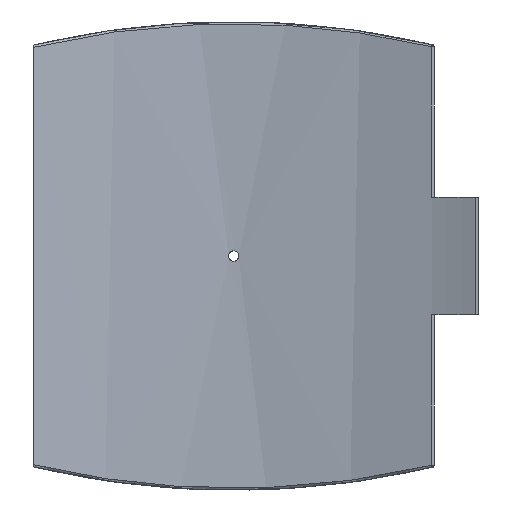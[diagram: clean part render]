
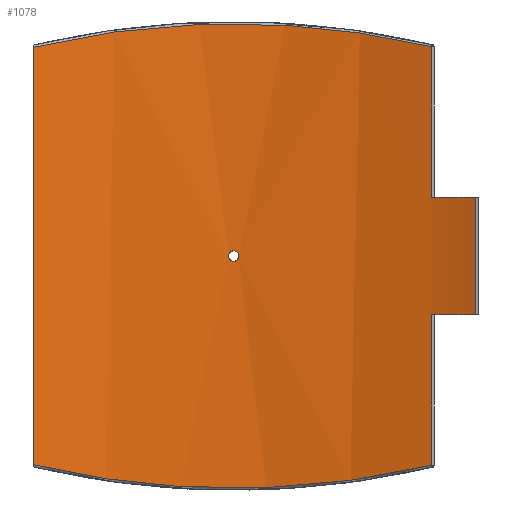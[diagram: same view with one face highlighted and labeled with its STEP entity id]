
A CAD part, front view. The second image highlights one B-rep face of the part: STEP entity #1078.
In plain terms, the highlighted cylindrical face has radius 600 mm (diameter 1200 mm), a partial arc.
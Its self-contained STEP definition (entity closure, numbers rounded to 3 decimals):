
#55=FACE_BOUND('',#355,.T.);
#109=B_SPLINE_CURVE_WITH_KNOTS('',3,(#2180,#2181,#2182,#2183,#2184,#2185,
#2186,#2187,#2188),.UNSPECIFIED.,.F.,.F.,(4,1,1,1,1,1,4),(-46.413,
-40.524,-34.635,-28.745,-16.966,
-11.077,-5.187),.UNSPECIFIED.);
#110=B_SPLINE_CURVE_WITH_KNOTS('',3,(#2197,#2198,#2199,#2200,#2201,#2202,
#2203,#2204,#2205),.UNSPECIFIED.,.F.,.F.,(4,1,1,1,1,1,4),(-42.084,
-36.195,-30.306,-18.527,-12.637,
-6.748,-0.858),.UNSPECIFIED.);
#111=B_SPLINE_CURVE_WITH_KNOTS('',3,(#2208,#2209,#2210,#2211,#2212,#2213,
#2214,#2215,#2216,#2217),.UNSPECIFIED.,.F.,.F.,(4,2,2,2,4),(0.,0.196,
0.392,0.588,0.784),.UNSPECIFIED.);
#112=B_SPLINE_CURVE_WITH_KNOTS('',3,(#2218,#2219,#2220,#2221,#2222,#2223,
#2224,#2225,#2226,#2227,#2228,#2229,#2230,#2231,#2232,#2233,#2234,#2235,
#2236,#2237,#2238,#2239,#2240,#2241,#2242,#2243),.UNSPECIFIED.,.F.,.F.,
(4,2,2,2,2,2,2,2,2,2,2,2,4),(0.784,0.979,1.175,
1.371,1.567,1.763,1.959,2.155,
2.351,2.546,2.742,2.938,3.134),
 .UNSPECIFIED.);
#133=LINE('',#1615,#184);
#144=LINE('',#1900,#195);
#151=LINE('',#2193,#202);
#152=LINE('',#2196,#203);
#184=VECTOR('',#1292,10.);
#195=VECTOR('',#1331,10.);
#202=VECTOR('',#1368,10.);
#203=VECTOR('',#1371,10.);
#244=CYLINDRICAL_SURFACE('',#1175,600.);
#288=FACE_OUTER_BOUND('',#354,.T.);
#354=EDGE_LOOP('',(#839,#840,#841,#842,#843,#844,#845,#846));
#355=EDGE_LOOP('',(#847,#848));
#449=CIRCLE('',#1176,600.);
#450=CIRCLE('',#1177,600.);
#510=VERTEX_POINT('',#1606);
#513=VERTEX_POINT('',#1613);
#533=VERTEX_POINT('',#1893);
#536=VERTEX_POINT('',#1898);
#549=VERTEX_POINT('',#2169);
#550=VERTEX_POINT('',#2190);
#551=VERTEX_POINT('',#2192);
#552=VERTEX_POINT('',#2195);
#553=VERTEX_POINT('',#2206);
#554=VERTEX_POINT('',#2207);
#613=EDGE_CURVE('',#513,#510,#133,.T.);
#643=EDGE_CURVE('',#536,#533,#144,.T.);
#666=EDGE_CURVE('',#549,#536,#109,.T.);
#667=EDGE_CURVE('',#550,#513,#449,.T.);
#668=EDGE_CURVE('',#550,#551,#151,.T.);
#669=EDGE_CURVE('',#533,#551,#450,.T.);
#670=EDGE_CURVE('',#552,#549,#152,.T.);
#671=EDGE_CURVE('',#510,#552,#110,.T.);
#672=EDGE_CURVE('',#553,#554,#111,.T.);
#673=EDGE_CURVE('',#554,#553,#112,.T.);
#839=ORIENTED_EDGE('',*,*,#667,.F.);
#840=ORIENTED_EDGE('',*,*,#668,.T.);
#841=ORIENTED_EDGE('',*,*,#669,.F.);
#842=ORIENTED_EDGE('',*,*,#643,.F.);
#843=ORIENTED_EDGE('',*,*,#666,.F.);
#844=ORIENTED_EDGE('',*,*,#670,.F.);
#845=ORIENTED_EDGE('',*,*,#671,.F.);
#846=ORIENTED_EDGE('',*,*,#613,.F.);
#847=ORIENTED_EDGE('',*,*,#672,.T.);
#848=ORIENTED_EDGE('',*,*,#673,.T.);
#1078=ADVANCED_FACE('',(#288,#55),#244,.F.);
#1175=AXIS2_PLACEMENT_3D('',#2189,#1364,#1365);
#1176=AXIS2_PLACEMENT_3D('',#2191,#1366,#1367);
#1177=AXIS2_PLACEMENT_3D('',#2194,#1369,#1370);
#1292=DIRECTION('',(0.,0.,-1.));
#1331=DIRECTION('',(0.,0.,-1.));
#1364=DIRECTION('center_axis',(0.,0.,1.));
#1365=DIRECTION('ref_axis',(-1.,0.,0.));
#1366=DIRECTION('center_axis',(0.,0.,1.));
#1367=DIRECTION('ref_axis',(-0.405,-0.915,0.));
#1368=DIRECTION('',(0.,0.,1.));
#1369=DIRECTION('center_axis',(0.,0.,-1.));
#1370=DIRECTION('ref_axis',(-0.405,-0.915,0.));
#1371=DIRECTION('',(0.,0.,1.));
#1606=CARTESIAN_POINT('',(198.488,566.218,-209.917));
#1613=CARTESIAN_POINT('',(198.488,566.218,-58.75));
#1615=CARTESIAN_POINT('',(198.488,566.218,0.));
#1893=CARTESIAN_POINT('',(198.488,566.218,58.75));
#1898=CARTESIAN_POINT('',(198.488,566.218,209.917));
#1900=CARTESIAN_POINT('',(198.488,566.218,0.));
#2169=CARTESIAN_POINT('',(-201.15,565.278,209.285));
#2180=CARTESIAN_POINT('Ctrl Pts',(-201.15,565.278,209.285));
#2181=CARTESIAN_POINT('Ctrl Pts',(-183.164,571.678,213.585));
#2182=CARTESIAN_POINT('Ctrl Pts',(-146.368,582.838,221.165));
#2183=CARTESIAN_POINT('Ctrl Pts',(-89.227,594.284,229.035));
#2184=CARTESIAN_POINT('Ctrl Pts',(-11.388,602.139,234.488));
#2185=CARTESIAN_POINT('Ctrl Pts',(67.295,598.454,231.914));
#2186=CARTESIAN_POINT('Ctrl Pts',(143.593,583.521,221.629));
#2187=CARTESIAN_POINT('Ctrl Pts',(180.46,572.538,214.167));
#2188=CARTESIAN_POINT('Ctrl Pts',(198.488,566.218,209.917));
#2189=CARTESIAN_POINT('Origin',(0.,0.,0.));
#2190=CARTESIAN_POINT('',(242.701,548.722,-58.75));
#2191=CARTESIAN_POINT('Origin',(0.,0.,
-58.75));
#2192=CARTESIAN_POINT('',(242.701,548.722,58.75));
#2193=CARTESIAN_POINT('',(242.701,548.722,0.));
#2194=CARTESIAN_POINT('Origin',(0.,0.,
58.75));
#2195=CARTESIAN_POINT('',(-201.15,565.278,-209.285));
#2196=CARTESIAN_POINT('',(-201.15,565.278,0.));
#2197=CARTESIAN_POINT('Ctrl Pts',(198.488,566.218,-209.917));
#2198=CARTESIAN_POINT('Ctrl Pts',(180.46,572.538,-214.167));
#2199=CARTESIAN_POINT('Ctrl Pts',(143.593,583.521,-221.629));
#2200=CARTESIAN_POINT('Ctrl Pts',(67.295,598.454,-231.914));
#2201=CARTESIAN_POINT('Ctrl Pts',(-11.388,602.139,-234.488));
#2202=CARTESIAN_POINT('Ctrl Pts',(-89.227,594.284,-229.035));
#2203=CARTESIAN_POINT('Ctrl Pts',(-146.368,582.838,-221.165));
#2204=CARTESIAN_POINT('Ctrl Pts',(-183.164,571.678,-213.585));
#2205=CARTESIAN_POINT('Ctrl Pts',(-201.15,565.278,-209.285));
#2206=CARTESIAN_POINT('',(5.2,599.977,0.));
#2207=CARTESIAN_POINT('',(0.,600.,-5.2));
#2208=CARTESIAN_POINT('Ctrl Pts',(5.2,599.977,0.));
#2209=CARTESIAN_POINT('Ctrl Pts',(5.2,599.977,-0.653));
#2210=CARTESIAN_POINT('Ctrl Pts',(5.07,599.979,-1.349));
#2211=CARTESIAN_POINT('Ctrl Pts',(4.539,599.983,-2.631));
#2212=CARTESIAN_POINT('Ctrl Pts',(4.139,599.986,-3.215));
#2213=CARTESIAN_POINT('Ctrl Pts',(3.215,599.992,-4.139));
#2214=CARTESIAN_POINT('Ctrl Pts',(2.631,599.995,-4.539));
#2215=CARTESIAN_POINT('Ctrl Pts',(1.349,599.999,-5.07));
#2216=CARTESIAN_POINT('Ctrl Pts',(0.653,600.,-5.2));
#2217=CARTESIAN_POINT('Ctrl Pts',(0.,600.,-5.2));
#2218=CARTESIAN_POINT('Ctrl Pts',(0.,600.,-5.2));
#2219=CARTESIAN_POINT('Ctrl Pts',(-0.653,600.,-5.2));
#2220=CARTESIAN_POINT('Ctrl Pts',(-1.349,599.999,-5.07));
#2221=CARTESIAN_POINT('Ctrl Pts',(-2.631,599.995,-4.539));
#2222=CARTESIAN_POINT('Ctrl Pts',(-3.215,599.992,-4.139));
#2223=CARTESIAN_POINT('Ctrl Pts',(-4.139,599.986,-3.215));
#2224=CARTESIAN_POINT('Ctrl Pts',(-4.539,599.983,-2.631));
#2225=CARTESIAN_POINT('Ctrl Pts',(-5.07,599.979,-1.349));
#2226=CARTESIAN_POINT('Ctrl Pts',(-5.2,599.977,-0.653));
#2227=CARTESIAN_POINT('Ctrl Pts',(-5.2,599.977,0.653));
#2228=CARTESIAN_POINT('Ctrl Pts',(-5.07,599.979,1.349));
#2229=CARTESIAN_POINT('Ctrl Pts',(-4.539,599.983,2.631));
#2230=CARTESIAN_POINT('Ctrl Pts',(-4.139,599.986,3.215));
#2231=CARTESIAN_POINT('Ctrl Pts',(-3.215,599.992,4.139));
#2232=CARTESIAN_POINT('Ctrl Pts',(-2.631,599.995,4.539));
#2233=CARTESIAN_POINT('Ctrl Pts',(-1.349,599.999,5.07));
#2234=CARTESIAN_POINT('Ctrl Pts',(-0.653,600.,5.2));
#2235=CARTESIAN_POINT('Ctrl Pts',(0.653,600.,5.2));
#2236=CARTESIAN_POINT('Ctrl Pts',(1.349,599.999,5.07));
#2237=CARTESIAN_POINT('Ctrl Pts',(2.631,599.995,4.539));
#2238=CARTESIAN_POINT('Ctrl Pts',(3.215,599.992,4.139));
#2239=CARTESIAN_POINT('Ctrl Pts',(4.139,599.986,3.215));
#2240=CARTESIAN_POINT('Ctrl Pts',(4.539,599.983,2.631));
#2241=CARTESIAN_POINT('Ctrl Pts',(5.07,599.979,1.349));
#2242=CARTESIAN_POINT('Ctrl Pts',(5.2,599.977,0.653));
#2243=CARTESIAN_POINT('Ctrl Pts',(5.2,599.977,0.));
